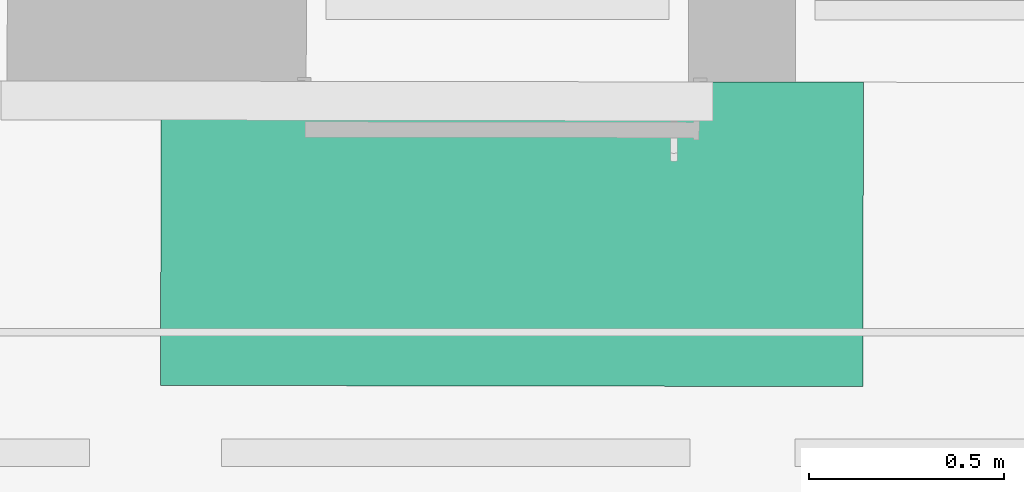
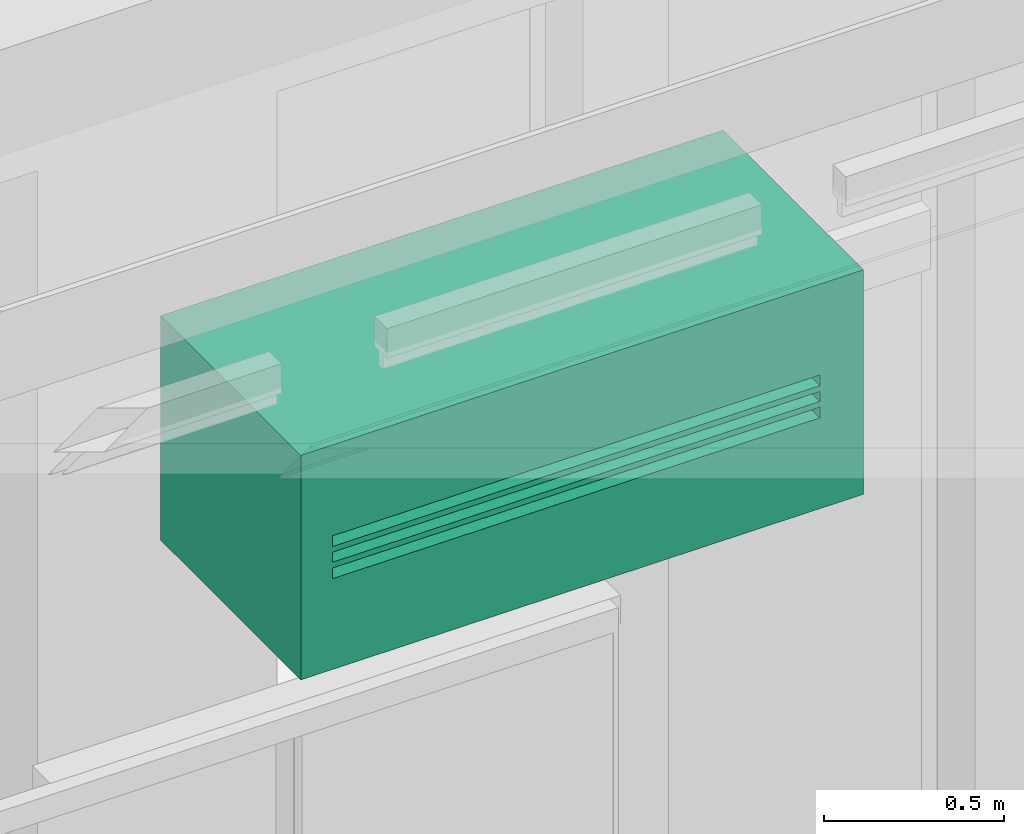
# One storey, part 79 of 128: 1 flow controller.
"""IFC2X3 building model written with IfcOpenShell, lengths in metres."""

from ifc_helpers import new_model, entity, si_unit, converted_unit, derived_unit, direction, frame, origin, place, context, subcontext, project, spatial, faceted_brep, source, transform, mapped, material, type_object, type_shapes, element, save


model = new_model("IFC2X3")

# Units and contexts
model_context = context("Model", 3, precision=1e-05, world=origin(), true_north=direction((6.123031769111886e-17, 1.0)))
body_context = subcontext(model_context, "Body", "Model", "MODEL_VIEW")
ifc_project = project(units=[si_unit("LENGTHUNIT", "METRE"), si_unit("AREAUNIT", "SQUARE_METRE"), converted_unit("PLANEANGLEUNIT", "DEGREE", entity("IfcPlaneAngleMeasure", 0.017453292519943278), si_unit("PLANEANGLEUNIT", "RADIAN"), dimensions=[0, 0, 0, 0, 0, 0, 0]), derived_unit("THERMALTRANSMITTANCEUNIT", [(si_unit("MASSUNIT", "GRAM", prefix="KILO"), 1), (si_unit("THERMODYNAMICTEMPERATUREUNIT", "KELVIN"), -1), (si_unit("TIMEUNIT", "SECOND"), -3)])], contexts=[model_context])

# Site, building, storey
site_placement = place(None, origin())
site = spatial("IfcSite", under=ifc_project, at=site_placement, Name="Default", CompositionType="ELEMENT")
building_placement = place(site_placement, origin())
building = spatial("IfcBuilding", under=site, at=building_placement, CompositionType="ELEMENT")
storey_placement = place(building_placement, origin())
storey = spatial("IfcBuildingStorey", under=building, at=storey_placement, Name="00_RDC CAF", CompositionType="ELEMENT", Elevation=2.4982504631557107e-13)

# Flow controller
ifc_material = material(Name="<Unnamed>")
air_terminal_box_type = type_object("IfcAirTerminalBoxType", Name="Eq_CVC_Climatisation murale:Eq_CVC_Climatisation murale_180x780x500mm", PredefinedType="NOTDEFINED", material=ifc_material)
shared_shape = source(origin(), body_context, "Body", "Brep", [
    faceted_brep([(1.0249999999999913, 0.8850000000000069, -2.2400000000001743), (-0.7750000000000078, 0.8850000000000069, -2.2400000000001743), (-0.7750000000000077, 0.10499999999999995, -2.2400000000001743), (1.0249999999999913, 0.10499999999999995, -2.2400000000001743), (1.0249999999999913, 0.8850000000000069, -3.0), (1.0249999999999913, 0.10499999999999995, -3.0), (-0.7750000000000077, 0.10499999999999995, -3.0), (-0.7750000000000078, 0.8850000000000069, -3.0), (-0.635630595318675, 0.8349999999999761, -2.5473809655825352), (0.9242274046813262, 0.8349999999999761, -2.5473809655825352), (0.9242274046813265, 0.8349999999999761, -2.583701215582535), (-0.635630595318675, 0.8349999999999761, -2.583701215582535), (-0.6356305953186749, 0.8850000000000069, -2.5473809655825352), (0.9242274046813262, 0.8850000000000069, -2.5473809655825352), (0.9242274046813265, 0.8850000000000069, -2.583701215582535), (-0.635630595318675, 0.8850000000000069, -2.583701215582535), (0.9242274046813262, 0.8349999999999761, -2.602958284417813), (-0.635630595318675, 0.8349999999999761, -2.602958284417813), (-0.6356305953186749, 0.8850000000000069, -2.602958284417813), (0.9242274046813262, 0.8850000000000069, -2.602958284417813), (0.9242274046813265, 0.8349999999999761, -2.6370417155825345), (0.9242274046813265, 0.8850000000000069, -2.6370417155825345), (-0.6356305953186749, 0.8349999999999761, -2.6370417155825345), (-0.635630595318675, 0.8850000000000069, -2.6370417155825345), (0.9242274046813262, 0.8349999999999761, -2.656341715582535), (-0.635630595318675, 0.8349999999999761, -2.656341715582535), (-0.6356305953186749, 0.8850000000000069, -2.656341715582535), (0.9242274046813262, 0.8850000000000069, -2.656341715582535), (0.9242274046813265, 0.8349999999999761, -2.6926619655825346), (0.9242274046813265, 0.8850000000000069, -2.6926619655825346), (-0.6356305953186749, 0.8349999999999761, -2.6926619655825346), (-0.635630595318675, 0.8850000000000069, -2.6926619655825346)], [[[0, 1, 2, 3]], [[4, 5, 6, 7]], [[2, 1, 7, 6]], [[3, 2, 6, 5]], [[0, 3, 5, 4]], [[8, 9, 10, 11]], [[9, 8, 12, 13]], [[10, 9, 13, 14]], [[11, 10, 14, 15]], [[8, 11, 15, 12]], [[16, 17, 18, 19]], [[20, 16, 19, 21]], [[22, 20, 21, 23]], [[17, 22, 23, 18]], [[24, 25, 26, 27]], [[28, 24, 27, 29]], [[30, 28, 29, 31]], [[25, 30, 31, 26]], [[1, 0, 4, 7], [19, 18, 23, 21], [13, 12, 15, 14], [27, 26, 31, 29]], [[17, 16, 20, 22]], [[25, 24, 28, 30]]]),
])
type_shapes(air_terminal_box_type, [shared_shape])
flow_controller_placement = place(storey_placement, frame((9.28522919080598, 144.0595708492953, 5.740000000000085), z_axis=(0.0, 0.0, 1.0), x_axis=(-0.9999987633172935, 0.0015726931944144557, 0.0)))
element("IfcFlowController", 1, at=flow_controller_placement, inside=storey, type_object=air_terminal_box_type, material=ifc_material, Name="Eq_CVC_Climatisation murale:Eq_CVC_Climatisation murale_180x780x500mm", ObjectType="Eq_CVC_Climatisation murale:Eq_CVC_Climatisation murale_180x780x500mm", context=body_context, shape_type="MappedRepresentation", body=[
    mapped(shared_shape, transform((0.0, 0.0, 0.0), scale=1.0)),
])

save(model, "model.ifc")
